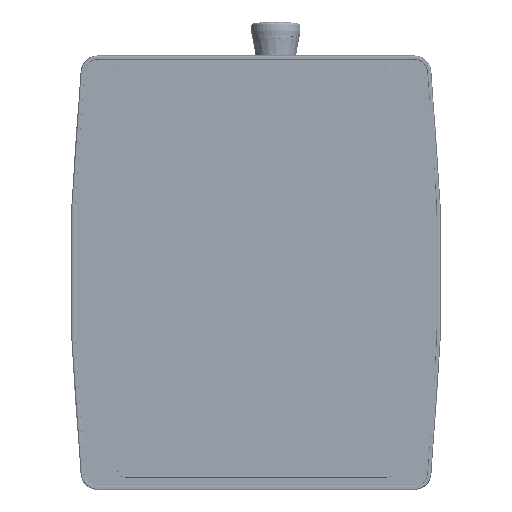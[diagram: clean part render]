
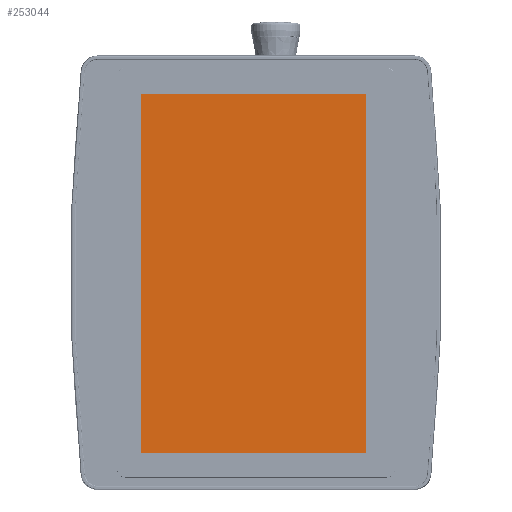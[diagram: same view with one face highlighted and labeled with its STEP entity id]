
A CAD part, top view. The second image highlights one B-rep face of the part: STEP entity #253044.
In plain terms, the highlighted planar face has unit normal (0, 0, 1).
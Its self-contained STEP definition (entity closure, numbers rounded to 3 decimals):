
#4080 = DIRECTION ( 'NONE',  ( 1., 0., 0. ) ) ;
#11512 = VERTEX_POINT ( 'NONE', #52731 ) ;
#12588 = VERTEX_POINT ( 'NONE', #172571 ) ;
#13183 = EDGE_CURVE ( 'NONE', #150107, #11512, #195750, .T. ) ;
#18223 = VERTEX_POINT ( 'NONE', #20374 ) ;
#20374 = CARTESIAN_POINT ( 'NONE',  ( -109.35, 69.865, 0. ) ) ;
#20972 = AXIS2_PLACEMENT_3D ( 'NONE', #231105, #151669, #4080 ) ;
#45997 = VECTOR ( 'NONE', #317657, 1000. ) ;
#46508 = DIRECTION ( 'NONE',  ( 0., 1., 0. ) ) ;
#51428 = LINE ( 'NONE', #221822, #45997 ) ;
#52731 = CARTESIAN_POINT ( 'NONE',  ( 108.35, 69.865, 0. ) ) ;
#55502 = CARTESIAN_POINT ( 'NONE',  ( 108.35, -66.535, 0. ) ) ;
#59212 = DIRECTION ( 'NONE',  ( 1., 0., 0. ) ) ;
#93625 = CARTESIAN_POINT ( 'NONE',  ( 108.35, 69.865, 0. ) ) ;
#101125 = VECTOR ( 'NONE', #270917, 1000. ) ;
#104396 = ORIENTED_EDGE ( 'NONE', *, *, #245662, .T. ) ;
#109501 = VECTOR ( 'NONE', #59212, 1000. ) ;
#147335 = EDGE_LOOP ( 'NONE', ( #104396, #285848, #276658, #212081 ) ) ;
#150107 = VERTEX_POINT ( 'NONE', #55502 ) ;
#151669 = DIRECTION ( 'NONE',  ( 0., 0., 1. ) ) ;
#172571 = CARTESIAN_POINT ( 'NONE',  ( -109.35, -66.535, 0. ) ) ;
#180930 = LINE ( 'NONE', #301070, #109501 ) ;
#195750 = LINE ( 'NONE', #93625, #258420 ) ;
#212081 = ORIENTED_EDGE ( 'NONE', *, *, #214630, .T. ) ;
#214630 = EDGE_CURVE ( 'NONE', #11512, #18223, #51428, .T. ) ;
#221501 = FACE_OUTER_BOUND ( 'NONE', #147335, .T. ) ;
#221822 = CARTESIAN_POINT ( 'NONE',  ( -109.35, 69.865, 0. ) ) ;
#226953 = LINE ( 'NONE', #249752, #101125 ) ;
#229167 = EDGE_CURVE ( 'NONE', #12588, #150107, #180930, .T. ) ;
#231105 = CARTESIAN_POINT ( 'NONE',  ( 0., 0., 0. ) ) ;
#245662 = EDGE_CURVE ( 'NONE', #18223, #12588, #226953, .T. ) ;
#249752 = CARTESIAN_POINT ( 'NONE',  ( -109.35, 69.865, 0. ) ) ;
#253044 = ADVANCED_FACE ( 'NONE', ( #221501 ), #320509, .T. ) ;
#258420 = VECTOR ( 'NONE', #46508, 1000. ) ;
#270917 = DIRECTION ( 'NONE',  ( 0., -1., 0. ) ) ;
#276658 = ORIENTED_EDGE ( 'NONE', *, *, #13183, .T. ) ;
#285848 = ORIENTED_EDGE ( 'NONE', *, *, #229167, .T. ) ;
#301070 = CARTESIAN_POINT ( 'NONE',  ( -109.35, -66.535, 0. ) ) ;
#317657 = DIRECTION ( 'NONE',  ( -1., 0., 0. ) ) ;
#320509 = PLANE ( 'NONE',  #20972 ) ;
